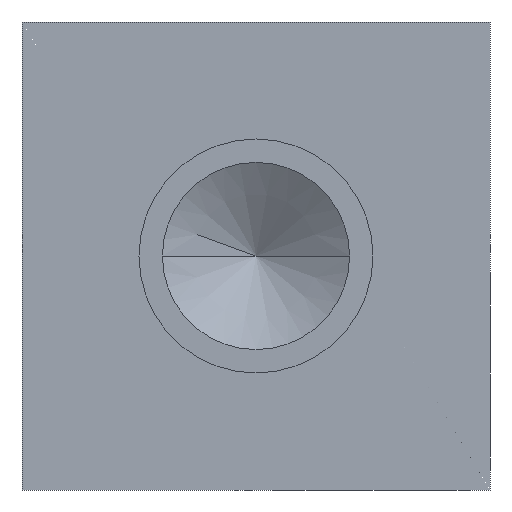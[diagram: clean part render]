
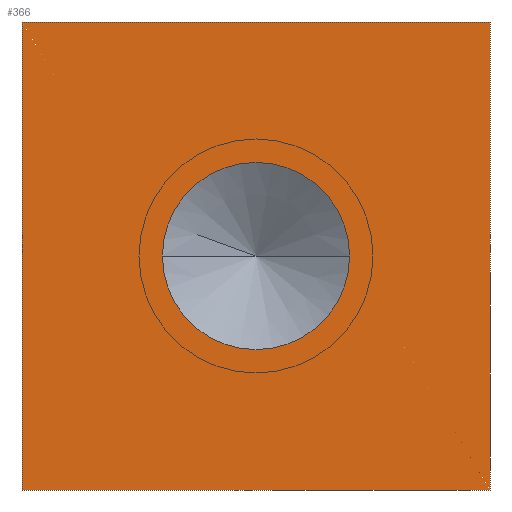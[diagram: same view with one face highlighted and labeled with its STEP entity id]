
A CAD part, front view. The second image highlights one B-rep face of the part: STEP entity #366.
In plain terms, the highlighted planar face has unit normal (0, -1, 0).
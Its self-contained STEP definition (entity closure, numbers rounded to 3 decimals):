
#1=DIRECTION('',(1.,0.,0.));
#2=VECTOR('',#1,4.);
#3=CARTESIAN_POINT('',(0.,0.,0.));
#4=LINE('',#3,#2);
#5=DIRECTION('',(0.,0.,-1.));
#6=VECTOR('',#5,4.);
#7=CARTESIAN_POINT('',(4.,0.,0.));
#8=LINE('',#7,#6);
#9=DIRECTION('',(-1.,0.,0.));
#10=VECTOR('',#9,4.);
#11=CARTESIAN_POINT('',(4.,0.,-4.));
#12=LINE('',#11,#10);
#13=DIRECTION('',(0.,0.,1.));
#14=VECTOR('',#13,4.);
#15=CARTESIAN_POINT('',(0.,0.,-4.));
#16=LINE('',#15,#14);
#17=CARTESIAN_POINT('',(2.,0.,-2.));
#18=DIRECTION('',(0.,-1.,0.));
#19=DIRECTION('',(-1.,0.,0.));
#20=AXIS2_PLACEMENT_3D('',#17,#18,#19);
#22=CARTESIAN_POINT('',(2.,0.,-2.));
#23=DIRECTION('',(0.,-1.,0.));
#24=DIRECTION('',(1.,0.,0.));
#25=AXIS2_PLACEMENT_3D('',#22,#23,#24);
#269=CARTESIAN_POINT('',(0.,0.,0.));
#270=CARTESIAN_POINT('',(4.,0.,0.));
#271=VERTEX_POINT('',#269);
#272=VERTEX_POINT('',#270);
#273=CARTESIAN_POINT('',(4.,0.,-4.));
#274=VERTEX_POINT('',#273);
#275=CARTESIAN_POINT('',(0.,0.,-4.));
#276=VERTEX_POINT('',#275);
#291=CARTESIAN_POINT('',(1.2,0.,-2.));
#292=CARTESIAN_POINT('',(2.8,0.,-2.));
#293=VERTEX_POINT('',#291);
#294=VERTEX_POINT('',#292);
#345=CARTESIAN_POINT('',(0.,0.,0.));
#346=DIRECTION('',(0.,1.,0.));
#347=DIRECTION('',(1.,0.,0.));
#348=AXIS2_PLACEMENT_3D('',#345,#346,#347);
#349=PLANE('',#348);
#351=ORIENTED_EDGE('',*,*,#350,.T.);
#353=ORIENTED_EDGE('',*,*,#352,.T.);
#355=ORIENTED_EDGE('',*,*,#354,.T.);
#357=ORIENTED_EDGE('',*,*,#356,.T.);
#358=EDGE_LOOP('',(#351,#353,#355,#357));
#359=FACE_OUTER_BOUND('',#358,.F.);
#361=ORIENTED_EDGE('',*,*,#360,.T.);
#363=ORIENTED_EDGE('',*,*,#362,.T.);
#364=EDGE_LOOP('',(#361,#363));
#365=FACE_BOUND('',#364,.F.);
#366=ADVANCED_FACE('',(#359,#365),#349,.F.);
#21=CIRCLE('',#20,0.8);
#26=CIRCLE('',#25,0.8);
#350=EDGE_CURVE('',#271,#272,#4,.T.);
#352=EDGE_CURVE('',#272,#274,#8,.T.);
#354=EDGE_CURVE('',#274,#276,#12,.T.);
#356=EDGE_CURVE('',#276,#271,#16,.T.);
#360=EDGE_CURVE('',#293,#294,#21,.T.);
#362=EDGE_CURVE('',#294,#293,#26,.T.);
